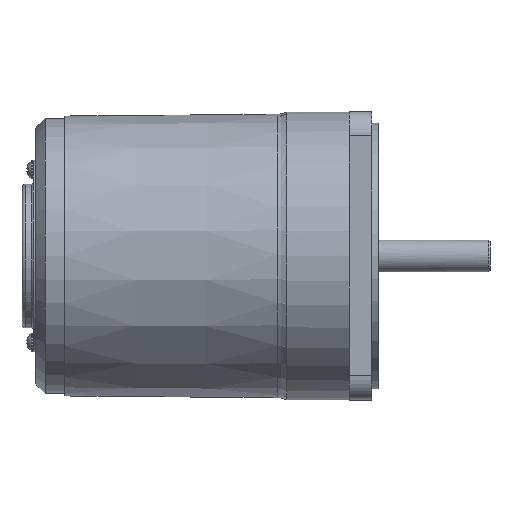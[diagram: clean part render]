
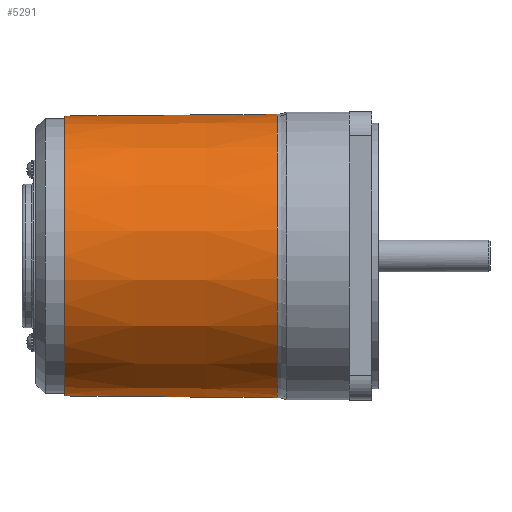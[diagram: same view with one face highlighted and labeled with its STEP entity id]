
A CAD part, top view. The second image highlights one B-rep face of the part: STEP entity #5291.
In plain terms, the highlighted conical face has half-angle 0.48 degrees and reference radius 44.029 mm.
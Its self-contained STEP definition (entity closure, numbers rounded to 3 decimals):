
#102=CONICAL_SURFACE('',#5796,44.029,0.48);
#181=B_SPLINE_CURVE_WITH_KNOTS('',3,(#9452,#9453,#9454,#9455),
 .UNSPECIFIED.,.F.,.F.,(4,4),(3.648,3.698),
 .UNSPECIFIED.);
#182=B_SPLINE_CURVE_WITH_KNOTS('',3,(#9456,#9457,#9458,#9459),
 .UNSPECIFIED.,.F.,.F.,(4,4),(-6.954,-3.698),
 .UNSPECIFIED.);
#183=B_SPLINE_CURVE_WITH_KNOTS('',3,(#9461,#9462,#9463,#9464),
 .UNSPECIFIED.,.F.,.F.,(4,4),(-3.256,0.),.UNSPECIFIED.);
#184=B_SPLINE_CURVE_WITH_KNOTS('',3,(#9466,#9467,#9468,#9469),
 .UNSPECIFIED.,.F.,.F.,(4,4),(3.256,3.306),
 .UNSPECIFIED.);
#374=FACE_BOUND('',#1213,.T.);
#573=CIRCLE('',#5779,43.75);
#583=CIRCLE('',#5795,44.308);
#584=CIRCLE('',#5797,44.031);
#868=FACE_OUTER_BOUND('',#1212,.T.);
#1212=EDGE_LOOP('',(#4316,#4317,#4318,#4319,#4320,#4321));
#1213=EDGE_LOOP('',(#4322));
#2363=VERTEX_POINT('',#9328);
#2374=VERTEX_POINT('',#9389);
#2386=VERTEX_POINT('',#9442);
#2387=VERTEX_POINT('',#9450);
#2388=VERTEX_POINT('',#9451);
#2389=VERTEX_POINT('',#9460);
#2390=VERTEX_POINT('',#9465);
#3033=EDGE_CURVE('',#2363,#2363,#573,.T.);
#3059=EDGE_CURVE('',#2374,#2386,#583,.T.);
#3060=EDGE_CURVE('',#2387,#2388,#181,.T.);
#3061=EDGE_CURVE('',#2386,#2388,#182,.T.);
#3062=EDGE_CURVE('',#2389,#2374,#183,.T.);
#3063=EDGE_CURVE('',#2389,#2390,#184,.T.);
#3064=EDGE_CURVE('',#2387,#2390,#584,.T.);
#4316=ORIENTED_EDGE('',*,*,#3060,.T.);
#4317=ORIENTED_EDGE('',*,*,#3061,.F.);
#4318=ORIENTED_EDGE('',*,*,#3059,.F.);
#4319=ORIENTED_EDGE('',*,*,#3062,.F.);
#4320=ORIENTED_EDGE('',*,*,#3063,.T.);
#4321=ORIENTED_EDGE('',*,*,#3064,.F.);
#4322=ORIENTED_EDGE('',*,*,#3033,.T.);
#5291=ADVANCED_FACE('',(#868,#374),#102,.T.);
#5779=AXIS2_PLACEMENT_3D('',#9329,#6953,#6954);
#5795=AXIS2_PLACEMENT_3D('',#9448,#6992,#6993);
#5796=AXIS2_PLACEMENT_3D('',#9449,#6994,#6995);
#5797=AXIS2_PLACEMENT_3D('',#9470,#6996,#6997);
#6953=DIRECTION('center_axis',(1.,0.,0.));
#6954=DIRECTION('ref_axis',(0.,1.,0.));
#6992=DIRECTION('center_axis',(1.,0.,0.));
#6993=DIRECTION('ref_axis',(0.,1.,0.));
#6994=DIRECTION('center_axis',(1.,0.,0.));
#6995=DIRECTION('ref_axis',(0.,1.,0.));
#6996=DIRECTION('center_axis',(1.,0.,0.));
#6997=DIRECTION('ref_axis',(0.,0.,-1.));
#9328=CARTESIAN_POINT('',(9.,43.75,0.));
#9329=CARTESIAN_POINT('Origin',(9.,0.,0.));
#9389=CARTESIAN_POINT('',(75.559,29.222,-33.306));
#9442=CARTESIAN_POINT('',(75.559,-29.222,-33.306));
#9448=CARTESIAN_POINT('Origin',(75.559,0.,0.));
#9449=CARTESIAN_POINT('Origin',(42.279,0.,
0.));
#9450=CARTESIAN_POINT('',(42.504,-29.21,-32.947));
#9451=CARTESIAN_POINT('',(43.,-29.21,-32.952));
#9452=CARTESIAN_POINT('Ctrl Pts',(42.504,-29.21,-32.947));
#9453=CARTESIAN_POINT('Ctrl Pts',(42.669,-29.21,-32.949));
#9454=CARTESIAN_POINT('Ctrl Pts',(42.835,-29.21,-32.95));
#9455=CARTESIAN_POINT('Ctrl Pts',(43.,-29.21,-32.952));
#9456=CARTESIAN_POINT('Ctrl Pts',(75.559,-29.222,-33.306));
#9457=CARTESIAN_POINT('Ctrl Pts',(64.706,-29.218,-33.188));
#9458=CARTESIAN_POINT('Ctrl Pts',(53.853,-29.214,-33.07));
#9459=CARTESIAN_POINT('Ctrl Pts',(43.,-29.21,-32.952));
#9460=CARTESIAN_POINT('',(43.,29.21,-32.952));
#9461=CARTESIAN_POINT('Ctrl Pts',(43.,29.21,-32.952));
#9462=CARTESIAN_POINT('Ctrl Pts',(53.853,29.214,-33.07));
#9463=CARTESIAN_POINT('Ctrl Pts',(64.706,29.218,-33.188));
#9464=CARTESIAN_POINT('Ctrl Pts',(75.559,29.222,-33.306));
#9465=CARTESIAN_POINT('',(42.504,29.21,-32.947));
#9466=CARTESIAN_POINT('Ctrl Pts',(43.,29.21,-32.952));
#9467=CARTESIAN_POINT('Ctrl Pts',(42.835,29.21,-32.95));
#9468=CARTESIAN_POINT('Ctrl Pts',(42.669,29.21,-32.949));
#9469=CARTESIAN_POINT('Ctrl Pts',(42.504,29.21,-32.947));
#9470=CARTESIAN_POINT('Origin',(42.504,0.,0.));
